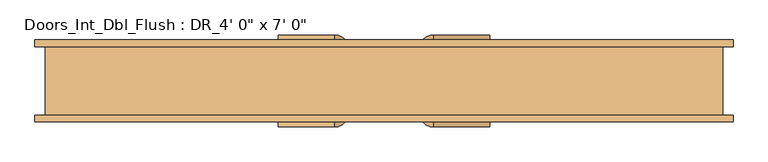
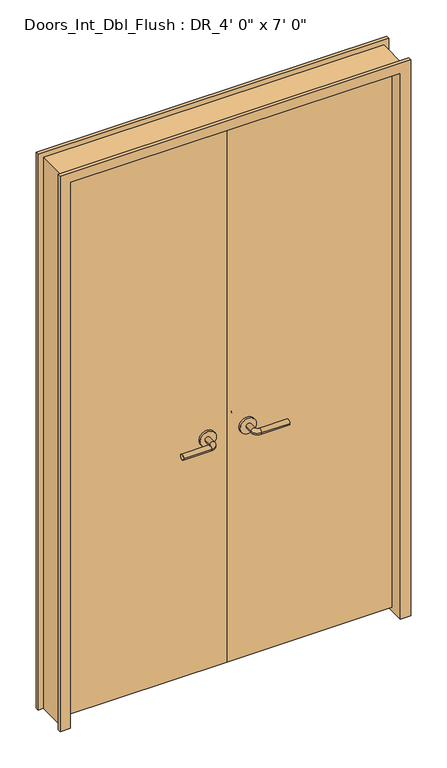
"""IFC4 building model written with IfcOpenShell, lengths in millimetres: door geometry."""

from ifc_helpers import new_model, si_unit, point, frame, frame_2d, origin, place, context, project, spatial, polyline, circle_curve, ellipse_curve, trimmed, segment, composite_curve, outline, extrude, faceted_brep, source, transform, mapped, element, save
from ifc_brep_helpers import plane_surface, cylinder_surface, revolved_surface, advanced_brep


def door_36f97166(model_context):
    return source(origin(), model_context, "Body", "SolidModel", [
        advanced_brep(
        [(-66.2, 30.225, 914.4), (-86.2, 30.225, 914.4), (-86.2, 60.225, 914.4), (-66.2, 60.225, 914.4), (-91.2, 65.225, 914.4), (-91.2, 85.225, 914.4), (-196.2, 85.225, 914.4), (-196.2, 65.225, 914.4)],
        [
            (0, 1, circle_curve(frame((-76.2, 30.225, 914.4), z_axis=(0.0, -1.0, 0.0), x_axis=(-1.0, 0.0, 0.0)), 10.0)),
            (1, 0, circle_curve(frame((-76.2, 30.225, 914.4), z_axis=(0.0, -1.0, 0.0), x_axis=(-1.0, 0.0, 0.0)), 10.0)),
            (1, 2),
            (2, 3, circle_curve(frame((-76.2, 60.225, 914.4), z_axis=(0.0, -1.0, 0.0), x_axis=(-1.0, 0.0, 0.0)), 10.0)),
            (3, 0),
            (3, 2, circle_curve(frame((-76.2, 60.225, 914.4), z_axis=(0.0, -1.0, 0.0), x_axis=(-1.0, 0.0, 0.0)), 10.0)),
            (4, 5, circle_curve(frame((-91.2, 75.225, 914.4), z_axis=(1.0, 0.0, 0.0), x_axis=(0.0, -1.0, 0.0)), 10.0)),
            (5, 3, circle_curve(frame((-91.2, 60.225, 914.4), z_axis=(0.0, 0.0, -1.0), x_axis=(1.0, 0.0, 0.0)), 25.0)),
            (2, 4, circle_curve(frame((-91.2, 60.225, 914.4), z_axis=(0.0, 0.0, 1.0), x_axis=(1.0, 0.0, 0.0)), 5.0)),
            (5, 4, circle_curve(frame((-91.2, 75.225, 914.4), z_axis=(1.0, 0.0, 0.0), x_axis=(0.0, -1.0, 0.0)), 10.0)),
            (6, 7, circle_curve(frame((-196.2, 75.225, 914.4), z_axis=(-1.0, 0.0, 0.0), x_axis=(0.0, -1.0, 0.0)), 10.0)),
            (7, 6, circle_curve(frame((-196.2, 75.225, 914.4), z_axis=(-1.0, 0.0, 0.0), x_axis=(0.0, -1.0, 0.0)), 10.0)),
            (4, 7),
            (6, 5),
        ],
        [
            plane_surface(frame((-76.2, 30.225, 914.4), z_axis=(0.0, -1.0, 0.0), x_axis=(0.0, 0.0, 1.0))),
            cylinder_surface(frame((-76.2, 30.225, 914.4), z_axis=(0.0, -1.0, 0.0), x_axis=(-1.0, 0.0, 0.0)), 10.0),
            revolved_surface(trimmed(ellipse_curve(frame((-76.2, 60.225, 914.4), z_axis=(0.0, 1.0, 0.0), x_axis=(-1.0, 0.0, 0.0)), 10.0, 10.0), [point((-66.2, 60.225, 914.4))], [point((-86.2, 60.225, 914.4))], True, "CARTESIAN"), (-91.2, 60.225, 914.4), (0.0, 0.0, -1.0)),
            revolved_surface(trimmed(ellipse_curve(frame((-76.2, 60.225, 914.4), z_axis=(0.0, 1.0, 0.0), x_axis=(-1.0, 0.0, 0.0)), 10.0, 10.0), [point((-86.2, 60.225, 914.4))], [point((-66.2, 60.225, 914.4))], True, "CARTESIAN"), (-91.2, 60.225, 914.4), (0.0, 0.0, -1.0)),
            plane_surface(frame((-196.2, 75.225, 914.4), z_axis=(-1.0, 0.0, 0.0), x_axis=(0.0, 0.0, 1.0))),
            cylinder_surface(frame((-91.2, 75.225, 914.4), z_axis=(1.0, 0.0, 0.0), x_axis=(0.0, -1.0, 0.0)), 10.0),
        ],
        [
            (0, [[1, 2]]),
            (1, [[3, 4, 5, -2]]),
            (1, [[-5, 6, -3, -1]]),
            (2, [[7, 8, -4, 9]]),
            (3, [[10, -9, -6, -8]]),
            (4, [[11, 12]]),
            (5, [[13, -11, 14, -7]]),
            (5, [[-14, -12, -13, -10]]),
        ],
    ),
        extrude(outline(composite_curve([segment(trimmed(circle_curve(frame_2d((914.4, -73.7)), 30.0), [point((914.4, -43.7))], [point((914.4, -103.7))], False, "CARTESIAN"), True, "CONTINUOUS"), segment(trimmed(circle_curve(frame_2d((914.4, -73.7)), 30.0), [point((914.4, -103.7))], [point((914.4, -43.7))], False, "CARTESIAN"), True, "CONTINUOUS")], self_intersect=False)), frame((0.0, 22.225, 0.0), z_axis=(0.0, 1.0, 0.0), x_axis=(0.0, 0.0, 1.0)), (0.0, 0.0, 1.0), 8.0),
        advanced_brep(
        [(-66.2, -30.225, 914.4), (-86.2, -30.225, 914.4), (-66.2, -60.225, 914.4), (-86.2, -60.225, 914.4), (-91.2, -65.225, 914.4), (-91.2, -85.225, 914.4), (-196.2, -85.225, 914.4), (-196.2, -65.225, 914.4)],
        [
            (0, 1, circle_curve(frame((-76.2, -30.225, 914.4), z_axis=(0.0, 1.0, 0.0), x_axis=(-1.0, 0.0, 0.0)), 10.0)),
            (1, 0, circle_curve(frame((-76.2, -30.225, 914.4), z_axis=(0.0, 1.0, 0.0), x_axis=(-1.0, 0.0, 0.0)), 10.0)),
            (0, 2),
            (2, 3, circle_curve(frame((-76.2, -60.225, 914.4), z_axis=(0.0, 1.0, 0.0), x_axis=(-1.0, 0.0, 0.0)), 10.0)),
            (3, 1),
            (3, 2, circle_curve(frame((-76.2, -60.225, 914.4), z_axis=(0.0, 1.0, 0.0), x_axis=(-1.0, 0.0, 0.0)), 10.0)),
            (4, 3, circle_curve(frame((-91.2, -60.225, 914.4), z_axis=(0.0, 0.0, 1.0), x_axis=(1.0, 0.0, 0.0)), 5.0)),
            (2, 5, circle_curve(frame((-91.2, -60.225, 914.4), z_axis=(0.0, 0.0, -1.0), x_axis=(1.0, 0.0, 0.0)), 25.0)),
            (5, 4, circle_curve(frame((-91.2, -75.225, 914.4), z_axis=(1.0, 0.0, 0.0), x_axis=(0.0, 1.0, 0.0)), 10.0)),
            (4, 5, circle_curve(frame((-91.2, -75.225, 914.4), z_axis=(1.0, 0.0, 0.0), x_axis=(0.0, 1.0, 0.0)), 10.0)),
            (6, 7, circle_curve(frame((-196.2, -75.225, 914.4), z_axis=(-1.0, 0.0, 0.0), x_axis=(0.0, 1.0, 0.0)), 10.0)),
            (7, 6, circle_curve(frame((-196.2, -75.225, 914.4), z_axis=(-1.0, 0.0, 0.0), x_axis=(0.0, 1.0, 0.0)), 10.0)),
            (5, 6),
            (7, 4),
        ],
        [
            plane_surface(frame((-76.2, -30.225, 914.4), z_axis=(0.0, 1.0, 0.0), x_axis=(0.0, 0.0, 1.0))),
            cylinder_surface(frame((-76.2, -30.225, 914.4), z_axis=(0.0, 1.0, 0.0), x_axis=(-1.0, 0.0, 0.0)), 10.0),
            revolved_surface(trimmed(ellipse_curve(frame((-76.2, -60.225, 914.4), z_axis=(0.0, 1.0, 0.0), x_axis=(-1.0, 0.0, 0.0)), 10.0, 10.0), [point((-66.2, -60.225, 914.4))], [point((-86.2, -60.225, 914.4))], True, "CARTESIAN"), (-91.2, -60.225, 914.4), (0.0, 0.0, -1.0)),
            revolved_surface(trimmed(ellipse_curve(frame((-76.2, -60.225, 914.4), z_axis=(0.0, 1.0, 0.0), x_axis=(-1.0, 0.0, 0.0)), 10.0, 10.0), [point((-86.2, -60.225, 914.4))], [point((-66.2, -60.225, 914.4))], True, "CARTESIAN"), (-91.2, -60.225, 914.4), (0.0, 0.0, -1.0)),
            plane_surface(frame((-196.2, -75.225, 914.4), z_axis=(-1.0, 0.0, 0.0), x_axis=(0.0, 0.0, 1.0))),
            cylinder_surface(frame((-91.2, -75.225, 914.4), z_axis=(1.0, 0.0, 0.0), x_axis=(0.0, 1.0, 0.0)), 10.0),
        ],
        [
            (0, [[1, 2]]),
            (1, [[-1, 3, 4, 5]]),
            (1, [[-2, -5, 6, -3]]),
            (2, [[7, -4, 8, 9]]),
            (3, [[-8, -6, -7, 10]]),
            (4, [[11, 12]]),
            (5, [[-9, 13, -12, 14]]),
            (5, [[-10, -14, -11, -13]]),
        ],
    ),
        extrude(outline(composite_curve([segment(trimmed(circle_curve(frame_2d((914.4, -73.7)), 30.0), [point((914.4, -43.7))], [point((914.4, -103.7))], False, "CARTESIAN"), True, "CONTINUOUS"), segment(trimmed(circle_curve(frame_2d((914.4, -73.7)), 30.0), [point((914.4, -103.7))], [point((914.4, -43.7))], False, "CARTESIAN"), True, "CONTINUOUS")], self_intersect=False)), frame((0.0, -30.225, 0.0), z_axis=(0.0, 1.0, 0.0), x_axis=(0.0, 0.0, 1.0)), (0.0, 0.0, 1.0), 8.0),
        extrude(outline(polyline([(-609.6, 22.225), (0.0, 22.225), (0.0, -22.225), (-609.6, -22.225), (-609.6, 22.225)])), frame((0.0, 0.0, 12.7), z_axis=(0.0, 0.0, 1.0), x_axis=(1.0, 0.0, 0.0)), (0.0, 0.0, 1.0), 2120.9),
        advanced_brep(
        [(66.2, 30.225, 914.4), (86.2, 30.225, 914.4), (66.2, 60.225, 914.4), (86.2, 60.225, 914.4), (91.2, 65.225, 914.4), (91.2, 85.225, 914.4), (196.2, 85.225, 914.4), (196.2, 65.225, 914.4)],
        [
            (0, 1, circle_curve(frame((76.2, 30.225, 914.4), z_axis=(0.0, -1.0, 0.0), x_axis=(1.0, 0.0, 0.0)), 10.0)),
            (1, 0, circle_curve(frame((76.2, 30.225, 914.4), z_axis=(0.0, -1.0, 0.0), x_axis=(1.0, 0.0, 0.0)), 10.0)),
            (0, 2),
            (2, 3, circle_curve(frame((76.2, 60.225, 914.4), z_axis=(0.0, -1.0, 0.0), x_axis=(1.0, 0.0, 0.0)), 10.0)),
            (3, 1),
            (3, 2, circle_curve(frame((76.2, 60.225, 914.4), z_axis=(0.0, -1.0, 0.0), x_axis=(1.0, 0.0, 0.0)), 10.0)),
            (4, 3, circle_curve(frame((91.2, 60.225, 914.4), z_axis=(0.0, 0.0, 1.0), x_axis=(-1.0, 0.0, 0.0)), 5.0)),
            (2, 5, circle_curve(frame((91.2, 60.225, 914.4), z_axis=(0.0, 0.0, -1.0), x_axis=(-1.0, 0.0, 0.0)), 25.0)),
            (5, 4, circle_curve(frame((91.2, 75.225, 914.4), z_axis=(-1.0, 0.0, 0.0), x_axis=(0.0, -1.0, 0.0)), 10.0)),
            (4, 5, circle_curve(frame((91.2, 75.225, 914.4), z_axis=(-1.0, 0.0, 0.0), x_axis=(0.0, -1.0, 0.0)), 10.0)),
            (6, 7, circle_curve(frame((196.2, 75.225, 914.4), z_axis=(1.0, 0.0, 0.0), x_axis=(0.0, -1.0, 0.0)), 10.0)),
            (7, 6, circle_curve(frame((196.2, 75.225, 914.4), z_axis=(1.0, 0.0, 0.0), x_axis=(0.0, -1.0, 0.0)), 10.0)),
            (5, 6),
            (7, 4),
        ],
        [
            plane_surface(frame((76.2, 30.225, 914.4), z_axis=(0.0, -1.0, 0.0), x_axis=(0.0, 0.0, 1.0))),
            cylinder_surface(frame((76.2, 30.225, 914.4), z_axis=(0.0, -1.0, 0.0), x_axis=(1.0, 0.0, 0.0)), 10.0),
            revolved_surface(trimmed(ellipse_curve(frame((76.2, 60.225, 914.4), z_axis=(0.0, -1.0, 0.0), x_axis=(1.0, 0.0, 0.0)), 10.0, 10.0), [point((66.2, 60.225, 914.4))], [point((86.2, 60.225, 914.4))], True, "CARTESIAN"), (91.2, 60.225, 914.4), (0.0, 0.0, -1.0)),
            revolved_surface(trimmed(ellipse_curve(frame((76.2, 60.225, 914.4), z_axis=(0.0, -1.0, 0.0), x_axis=(1.0, 0.0, 0.0)), 10.0, 10.0), [point((86.2, 60.225, 914.4))], [point((66.2, 60.225, 914.4))], True, "CARTESIAN"), (91.2, 60.225, 914.4), (0.0, 0.0, -1.0)),
            plane_surface(frame((196.2, 75.225, 914.4), z_axis=(1.0, 0.0, 0.0), x_axis=(0.0, 0.0, 1.0))),
            cylinder_surface(frame((91.2, 75.225, 914.4), z_axis=(-1.0, 0.0, 0.0), x_axis=(0.0, -1.0, 0.0)), 10.0),
        ],
        [
            (0, [[1, 2]]),
            (1, [[-1, 3, 4, 5]]),
            (1, [[-2, -5, 6, -3]]),
            (2, [[7, -4, 8, 9]]),
            (3, [[-8, -6, -7, 10]]),
            (4, [[11, 12]]),
            (5, [[-9, 13, -12, 14]]),
            (5, [[-10, -14, -11, -13]]),
        ],
    ),
        extrude(outline(composite_curve([segment(trimmed(circle_curve(frame_2d((914.4, 73.7)), 30.0), [point((914.4, 43.7))], [point((914.4, 103.7))], False, "CARTESIAN"), True, "CONTINUOUS"), segment(trimmed(circle_curve(frame_2d((914.4, 73.7)), 30.0), [point((914.4, 103.7))], [point((914.4, 43.7))], False, "CARTESIAN"), True, "CONTINUOUS")], self_intersect=False)), frame((0.0, 22.225, 0.0), z_axis=(0.0, 1.0, 0.0), x_axis=(0.0, 0.0, 1.0)), (0.0, 0.0, 1.0), 8.0),
        advanced_brep(
        [(66.2, -30.225, 914.4), (86.2, -30.225, 914.4), (86.2, -60.225, 914.4), (66.2, -60.225, 914.4), (91.2, -65.225, 914.4), (91.2, -85.225, 914.4), (196.2, -85.225, 914.4), (196.2, -65.225, 914.4)],
        [
            (0, 1, circle_curve(frame((76.2, -30.225, 914.4), z_axis=(0.0, 1.0, 0.0), x_axis=(1.0, 0.0, 0.0)), 10.0)),
            (1, 0, circle_curve(frame((76.2, -30.225, 914.4), z_axis=(0.0, 1.0, 0.0), x_axis=(1.0, 0.0, 0.0)), 10.0)),
            (1, 2),
            (2, 3, circle_curve(frame((76.2, -60.225, 914.4), z_axis=(0.0, 1.0, 0.0), x_axis=(1.0, 0.0, 0.0)), 10.0)),
            (3, 0),
            (3, 2, circle_curve(frame((76.2, -60.225, 914.4), z_axis=(0.0, 1.0, 0.0), x_axis=(1.0, 0.0, 0.0)), 10.0)),
            (4, 5, circle_curve(frame((91.2, -75.225, 914.4), z_axis=(-1.0, 0.0, 0.0), x_axis=(0.0, 1.0, 0.0)), 10.0)),
            (5, 3, circle_curve(frame((91.2, -60.225, 914.4), z_axis=(0.0, 0.0, -1.0), x_axis=(-1.0, 0.0, 0.0)), 25.0)),
            (2, 4, circle_curve(frame((91.2, -60.225, 914.4), z_axis=(0.0, 0.0, 1.0), x_axis=(-1.0, 0.0, 0.0)), 5.0)),
            (5, 4, circle_curve(frame((91.2, -75.225, 914.4), z_axis=(-1.0, 0.0, 0.0), x_axis=(0.0, 1.0, 0.0)), 10.0)),
            (6, 7, circle_curve(frame((196.2, -75.225, 914.4), z_axis=(1.0, 0.0, 0.0), x_axis=(0.0, 1.0, 0.0)), 10.0)),
            (7, 6, circle_curve(frame((196.2, -75.225, 914.4), z_axis=(1.0, 0.0, 0.0), x_axis=(0.0, 1.0, 0.0)), 10.0)),
            (4, 7),
            (6, 5),
        ],
        [
            plane_surface(frame((76.2, -30.225, 914.4), z_axis=(0.0, 1.0, 0.0), x_axis=(0.0, 0.0, 1.0))),
            cylinder_surface(frame((76.2, -30.225, 914.4), z_axis=(0.0, 1.0, 0.0), x_axis=(1.0, 0.0, 0.0)), 10.0),
            revolved_surface(trimmed(ellipse_curve(frame((76.2, -60.225, 914.4), z_axis=(0.0, -1.0, 0.0), x_axis=(1.0, 0.0, 0.0)), 10.0, 10.0), [point((66.2, -60.225, 914.4))], [point((86.2, -60.225, 914.4))], True, "CARTESIAN"), (91.2, -60.225, 914.4), (0.0, 0.0, -1.0)),
            revolved_surface(trimmed(ellipse_curve(frame((76.2, -60.225, 914.4), z_axis=(0.0, -1.0, 0.0), x_axis=(1.0, 0.0, 0.0)), 10.0, 10.0), [point((86.2, -60.225, 914.4))], [point((66.2, -60.225, 914.4))], True, "CARTESIAN"), (91.2, -60.225, 914.4), (0.0, 0.0, -1.0)),
            plane_surface(frame((196.2, -75.225, 914.4), z_axis=(1.0, 0.0, 0.0), x_axis=(0.0, 0.0, 1.0))),
            cylinder_surface(frame((91.2, -75.225, 914.4), z_axis=(-1.0, 0.0, 0.0), x_axis=(0.0, 1.0, 0.0)), 10.0),
        ],
        [
            (0, [[1, 2]]),
            (1, [[3, 4, 5, -2]]),
            (1, [[-5, 6, -3, -1]]),
            (2, [[7, 8, -4, 9]]),
            (3, [[10, -9, -6, -8]]),
            (4, [[11, 12]]),
            (5, [[13, -11, 14, -7]]),
            (5, [[-14, -12, -13, -10]]),
        ],
    ),
        extrude(outline(composite_curve([segment(trimmed(circle_curve(frame_2d((914.4, 73.7)), 30.0), [point((914.4, 43.7))], [point((914.4, 103.7))], False, "CARTESIAN"), True, "CONTINUOUS"), segment(trimmed(circle_curve(frame_2d((914.4, 73.7)), 30.0), [point((914.4, 103.7))], [point((914.4, 43.7))], False, "CARTESIAN"), True, "CONTINUOUS")], self_intersect=False)), frame((0.0, -30.225, 0.0), z_axis=(0.0, 1.0, 0.0), x_axis=(0.0, 0.0, 1.0)), (0.0, 0.0, 1.0), 8.0),
        extrude(outline(polyline([(609.6, 22.225), (609.6, -22.225), (0.0, -22.225), (0.0, 22.225), (609.6, 22.225)])), frame((0.0, 0.0, 12.7), z_axis=(0.0, 0.0, 1.0), x_axis=(1.0, 0.0, 0.0)), (0.0, 0.0, 1.0), 2120.9),
        faceted_brep([(-609.6, -76.2, 0.0), (-647.7, -76.2, 0.0), (-647.7, -63.5, 0.0), (-628.65, -63.5, 0.0), (-628.65, 63.5, 0.0), (-647.7, 63.5, 0.0), (-647.7, 76.2, 0.0), (-609.6, 76.2, 0.0), (-609.6, -76.2, 2133.6), (609.6, -76.2, 2133.6), (609.6, -76.2, 0.0), (647.7, -76.2, 0.0), (647.7, -76.2, 2171.7), (-647.7, -76.2, 2171.7), (-647.7, -63.5, 2171.7), (647.7, -63.5, 2171.7), (647.7, -63.5, 0.0), (628.65, -63.5, 0.0), (628.65, -63.5, 2152.65), (-628.65, -63.5, 2152.65), (-628.65, 63.5, 2152.65), (628.65, 63.5, 2152.65), (628.65, 63.5, 0.0), (647.7, 63.5, 0.0), (647.7, 63.5, 2171.7), (-647.7, 63.5, 2171.7), (-647.7, 76.2, 2171.7), (647.7, 76.2, 2171.7), (647.7, 76.2, 0.0), (609.6, 76.2, 0.0), (609.6, 76.2, 2133.6), (-609.6, 76.2, 2133.6)], [[[0, 1, 2, 3, 4, 5, 6, 7]], [[1, 0, 8, 9, 10, 11, 12, 13]], [[2, 1, 13, 14]], [[3, 2, 14, 15, 16, 17, 18, 19]], [[4, 3, 19, 20]], [[5, 4, 20, 21, 22, 23, 24, 25]], [[6, 5, 25, 26]], [[7, 6, 26, 27, 28, 29, 30, 31]], [[0, 7, 31, 8]], [[9, 30, 29, 10]], [[10, 29, 28, 23, 22, 17, 16, 11]], [[15, 12, 11, 16]], [[27, 24, 23, 28]], [[21, 18, 17, 22]], [[20, 19, 18, 21]], [[8, 31, 30, 9]], [[14, 13, 12, 15]], [[26, 25, 24, 27]]]),
    ])


if __name__ == "__main__":
    model = new_model("IFC4")
    model_context = context("Model", 3, world=origin())
    ifc_project = project(units=[si_unit("LENGTHUNIT", "METRE", prefix="MILLI")], contexts=[model_context])
    site = spatial("IfcSite", under=ifc_project)
    building = spatial("IfcBuilding", under=site)
    placement = place(None, origin())
    door_shape = door_36f97166(model_context)
    element("IfcDoor", 1, ObjectType="Doors_Int_Dbl_Flush : DR_4' 0\" x 7' 0\"", at=placement, inside=building, context=model_context, shape_type="MappedRepresentation", body=[
        mapped(door_shape, transform((0.0, 0.0, 0.0), x_axis=(1.0, 0.0, 0.0), y_axis=(0.0, 1.0, 0.0), z_axis=(0.0, 0.0, 1.0))),
    ])
    save(model, "model.ifc")
